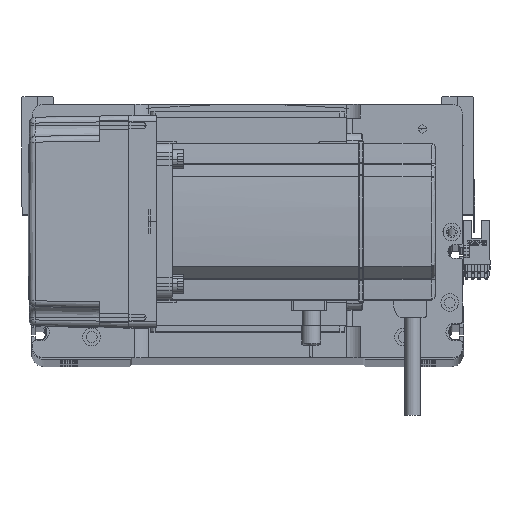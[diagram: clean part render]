
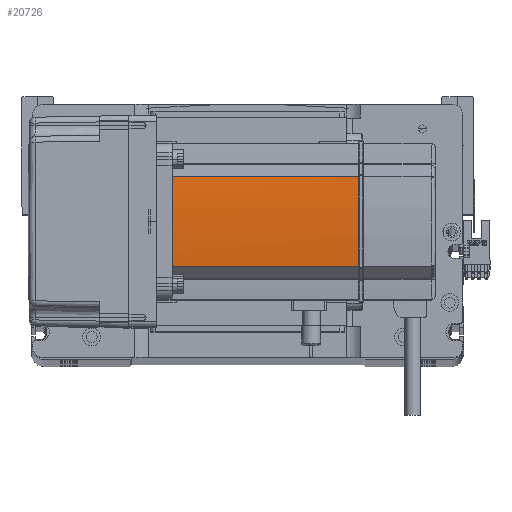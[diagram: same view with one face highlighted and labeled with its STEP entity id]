
A CAD part, top view. The second image highlights one B-rep face of the part: STEP entity #20726.
In plain terms, the highlighted cylindrical face has radius 270 mm (diameter 540 mm), a partial arc.
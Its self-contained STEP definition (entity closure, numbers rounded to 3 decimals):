
#960 = CARTESIAN_POINT ( 'NONE',  ( 40., 0.127, 134. ) ) ;
#7374 = CARTESIAN_POINT ( 'NONE',  ( 39.042, 22.724, 39. ) ) ;
#7930 = DIRECTION ( 'NONE',  ( -1., 0., 0. ) ) ;
#8147 = AXIS2_PLACEMENT_3D ( 'NONE', #38202, #12492, #16778 ) ;
#10162 = ORIENTED_EDGE ( 'NONE', *, *, #21188, .T. ) ;
#10465 = EDGE_CURVE ( 'NONE', #13701, #36530, #42986, .T. ) ;
#12455 = CARTESIAN_POINT ( 'NONE',  ( 40., 0.042, 134. ) ) ;
#12492 = DIRECTION ( 'NONE',  ( 0., 0., -1. ) ) ;
#13103 = CARTESIAN_POINT ( 'NONE',  ( -230., 0., 134. ) ) ;
#13110 = CIRCLE ( 'NONE', #53660, 270. ) ;
#13346 = EDGE_LOOP ( 'NONE', ( #31273, #20200, #10162, #53061, #23102, #40682 ) ) ;
#13701 = VERTEX_POINT ( 'NONE', #7374 ) ;
#16778 = DIRECTION ( 'NONE',  ( -1., 0., 0. ) ) ;
#17131 = DIRECTION ( 'NONE',  ( 0., 0., 1. ) ) ;
#17272 = DIRECTION ( 'NONE',  ( -1., 0., 0. ) ) ;
#18031 = CARTESIAN_POINT ( 'NONE',  ( 39.042, -22.724, 39. ) ) ;
#18405 = EDGE_CURVE ( 'NONE', #39071, #49996, #54311, .T. ) ;
#19973 = EDGE_CURVE ( 'NONE', #32180, #36530, #41438, .T. ) ;
#20200 = ORIENTED_EDGE ( 'NONE', *, *, #10465, .F. ) ;
#20398 = CARTESIAN_POINT ( 'NONE',  ( 40., -0.127, 134. ) ) ;
#20726 = ADVANCED_FACE ( 'NONE', ( #46065 ), #54804, .T. ) ;
#20738 = EDGE_CURVE ( 'NONE', #39071, #32180, #31985, .T. ) ;
#21188 = EDGE_CURVE ( 'NONE', #13701, #55133, #44044, .T. ) ;
#21240 = VECTOR ( 'NONE', #17131, 1000. ) ;
#23102 = ORIENTED_EDGE ( 'NONE', *, *, #18405, .F. ) ;
#24024 = CARTESIAN_POINT ( 'NONE',  ( 39.042, -22.724, 134. ) ) ;
#24424 = AXIS2_PLACEMENT_3D ( 'NONE', #51580, #34537, #17272 ) ;
#24812 = CARTESIAN_POINT ( 'NONE',  ( -230., 0., 58. ) ) ;
#25102 = CARTESIAN_POINT ( 'NONE',  ( 39.042, -22.724, 58. ) ) ;
#31273 = ORIENTED_EDGE ( 'NONE', *, *, #19973, .T. ) ;
#31985 = CIRCLE ( 'NONE', #24424, 270. ) ;
#32180 = VERTEX_POINT ( 'NONE', #24024 ) ;
#34537 = DIRECTION ( 'NONE',  ( 0., 0., -1. ) ) ;
#36530 = VERTEX_POINT ( 'NONE', #18031 ) ;
#38202 = CARTESIAN_POINT ( 'NONE',  ( -230., 0., 39. ) ) ;
#38333 = CARTESIAN_POINT ( 'NONE',  ( 40., 0.127, 134. ) ) ;
#39071 = VERTEX_POINT ( 'NONE', #20398 ) ;
#40548 = AXIS2_PLACEMENT_3D ( 'NONE', #24812, #41639, #7930 ) ;
#40682 = ORIENTED_EDGE ( 'NONE', *, *, #20738, .T. ) ;
#41438 = LINE ( 'NONE', #25102, #42787 ) ;
#41639 = DIRECTION ( 'NONE',  ( 0., 0., -1. ) ) ;
#42721 = DIRECTION ( 'NONE',  ( -1., 0., 0. ) ) ;
#42787 = VECTOR ( 'NONE', #47551, 1000. ) ;
#42986 = CIRCLE ( 'NONE', #8147, 270. ) ;
#44044 = LINE ( 'NONE', #55391, #21240 ) ;
#45802 = EDGE_CURVE ( 'NONE', #55133, #49996, #13110, .T. ) ;
#46065 = FACE_OUTER_BOUND ( 'NONE', #13346, .T. ) ;
#46745 = CARTESIAN_POINT ( 'NONE',  ( 40., -0.042, 134. ) ) ;
#47551 = DIRECTION ( 'NONE',  ( 0., 0., -1. ) ) ;
#49996 = VERTEX_POINT ( 'NONE', #960 ) ;
#51580 = CARTESIAN_POINT ( 'NONE',  ( -230., 0., 134. ) ) ;
#53061 = ORIENTED_EDGE ( 'NONE', *, *, #45802, .T. ) ;
#53660 = AXIS2_PLACEMENT_3D ( 'NONE', #13103, #55489, #42721 ) ;
#54133 = CARTESIAN_POINT ( 'NONE',  ( 39.042, 22.724, 134. ) ) ;
#54311 = B_SPLINE_CURVE_WITH_KNOTS ( 'NONE', 3,
 ( #55387, #46745, #12455, #38333 ),
 .UNSPECIFIED., .F., .F.,
 ( 4, 4 ),
 ( 0., 1. ),
 .UNSPECIFIED. ) ;
#54804 = CYLINDRICAL_SURFACE ( 'NONE', #40548, 270. ) ;
#55133 = VERTEX_POINT ( 'NONE', #54133 ) ;
#55387 = CARTESIAN_POINT ( 'NONE',  ( 40., -0.127, 134. ) ) ;
#55391 = CARTESIAN_POINT ( 'NONE',  ( 39.042, 22.724, 58. ) ) ;
#55489 = DIRECTION ( 'NONE',  ( 0., 0., -1. ) ) ;
